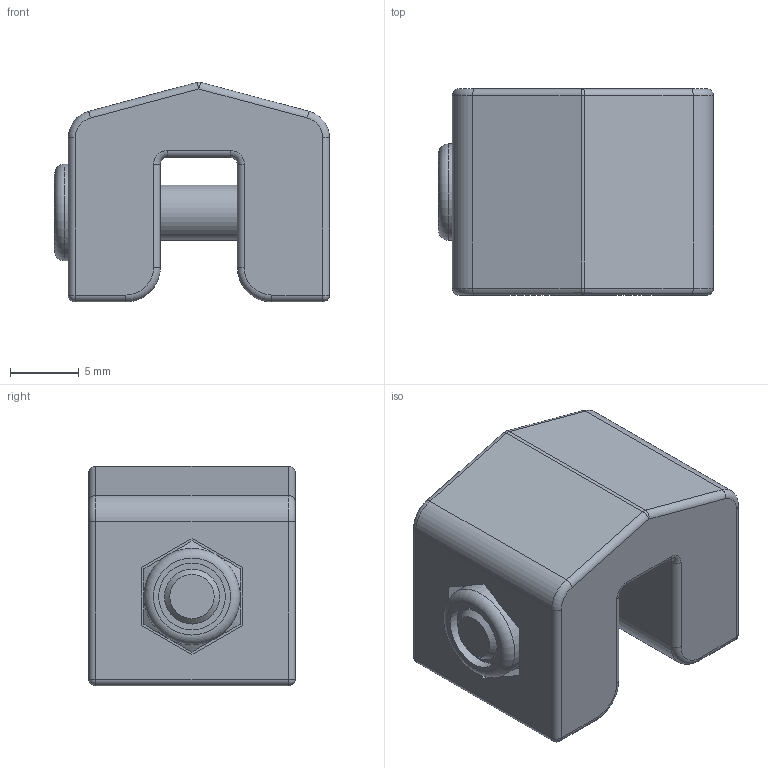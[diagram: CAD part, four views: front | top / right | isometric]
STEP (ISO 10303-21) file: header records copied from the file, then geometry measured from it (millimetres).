
FILE_DESCRIPTION (( 'STEP AP214' ), '1' );
FILE_NAME ('L19167 ENS.step', '2024-12-03T16:24:42', ( '' ), ( '' ), 'SwSTEP 2.0', 'SolidWorks 2023', '' );
FILE_SCHEMA (( 'AUTOMOTIVE_DESIGN' ));
Length unit declared in the file: millimetre
Products named in the file (4): L19167; L19167 ENS; torque nut 08_1_APC_Ecrou frein - DIN985 - M4-N; socket head cap screw_APC_Vis CHC M4 x 16 - 16N
Assembly tree (3 placements, depth 2):
  L19167 ENS
    L19167
    torque nut 08_1_APC_Ecrou frein - DIN985 - M4-N
    socket head cap screw_APC_Vis CHC M4 x 16 - 16N
Bounding box: 20 x 15 x 15.98 mm (x, y, z)
Volume: 3262.9 mm3; surface area: 2469.9 mm2
Topology: 3 solids, 3 shells, 115 faces, 260 edges, 149 vertices
Faces by surface type: plane 43, cylinder 36, torus 15, cone 15, sphere 6
Full cylindrical faces by diameter (mm): 3.3 x1, 4 x2, 4.2 x2, 4.857 x1, 7 x2, 8.3 x1
Entity records: 3167 total; most frequent: CARTESIAN_POINT 597, DIRECTION 554, ORIENTED_EDGE 462, EDGE_CURVE 231, AXIS2_PLACEMENT_3D 226, VERTEX_POINT 141, EDGE_LOOP 140, FACE_OUTER_BOUND 127
